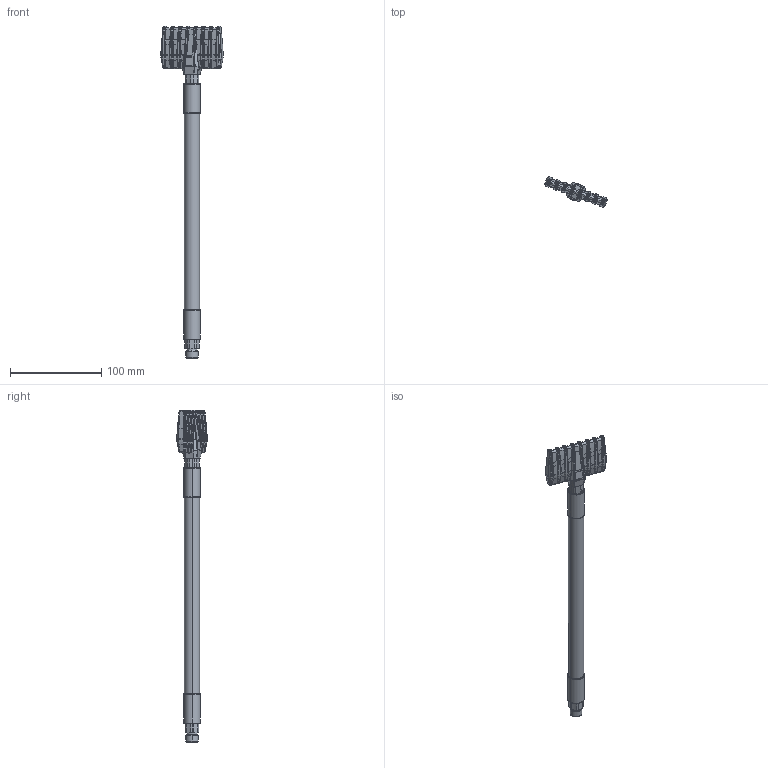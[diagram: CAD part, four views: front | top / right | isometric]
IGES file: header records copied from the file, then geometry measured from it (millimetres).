
Start section: SolidWorks IGES file using analytic representation for surfaces
Global section: file name: G:\SILVENT AB\ENGINEERING\Drawings\WEB CAD\CAD\9003W-S-300.IGS; native system: SolidWorks 2021; preprocessor: SolidWorks 2021; author: p.jaasko; date: 241016.145134; units: millimetre
Bounding box: 68.03 x 33.15 x 363.14 mm (x, y, z)
Surface area: 36532.5 mm2 (no closed solid volume)
Topology: 0 solids, 0 shells, 1331 faces, 8321 edges, 8283 vertices
Faces by surface type: bspline 759, revolution 572
